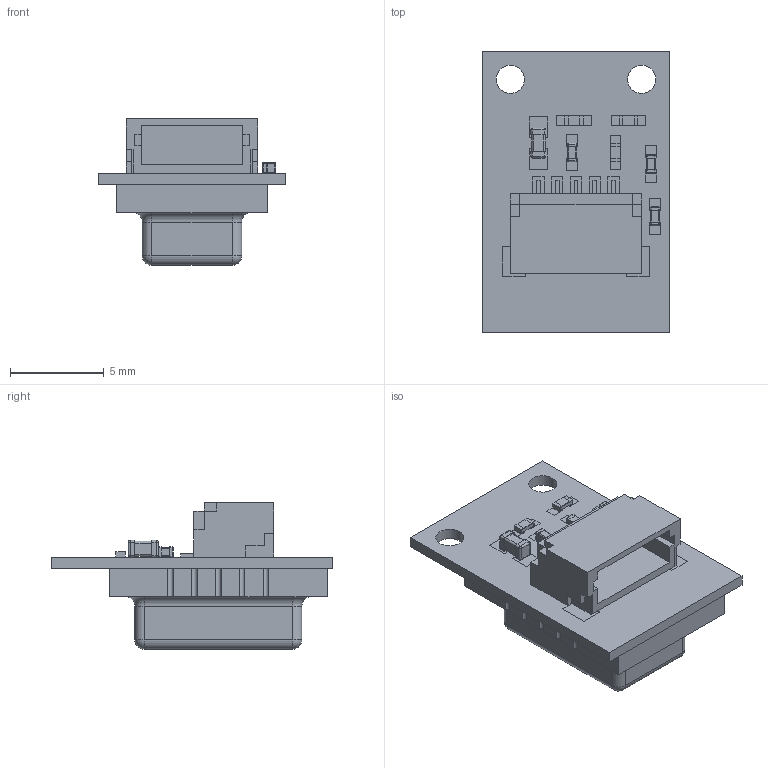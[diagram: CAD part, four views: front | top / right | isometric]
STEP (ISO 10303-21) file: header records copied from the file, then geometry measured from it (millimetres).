
FILE_DESCRIPTION(('FreeCAD Model'),'2;1');
FILE_NAME('/home/devy/MEGA/TinyCircuits/Assets/BoardsANDBoardModels_2/Wirelings/TinyCircuits-Wireling-IR-Heat-Camera-AST1045/cad/Wireling_THRMERAL_AST1045_REV1-STEP.step','2020-08-12T00:51:15',('Author'),(''), 'Open CASCADE STEP processor 7.4','FreeCAD','Unknown');
FILE_SCHEMA(('AUTOMOTIVE_DESIGN { 1 0 10303 214 1 1 1 1 }'));
Products named in the file (1): Wireling_THRMERAL_AST1045_REV1-STEP
Bounding box: 10 x 15 x 7.79 mm (x, y, z)
Volume: 679.6 mm3; surface area: 1341.4 mm2
Topology: 115 solids, 115 shells, 1092 faces, 3493 edges, 3580 vertices
Faces by surface type: plane 826, cylinder 194, sphere 64, torus 8
Full cylindrical faces by diameter (mm): 1.502 x2
Entity records: 85528 total; most frequent: CARTESIAN_POINT 15312, DIRECTION 10539, LINE 6571, VECTOR 6571, ORIENTED_EDGE 4730, PCURVE 4730, DEFINITIONAL_REPRESENTATION 4730, EDGE_CURVE 2365
